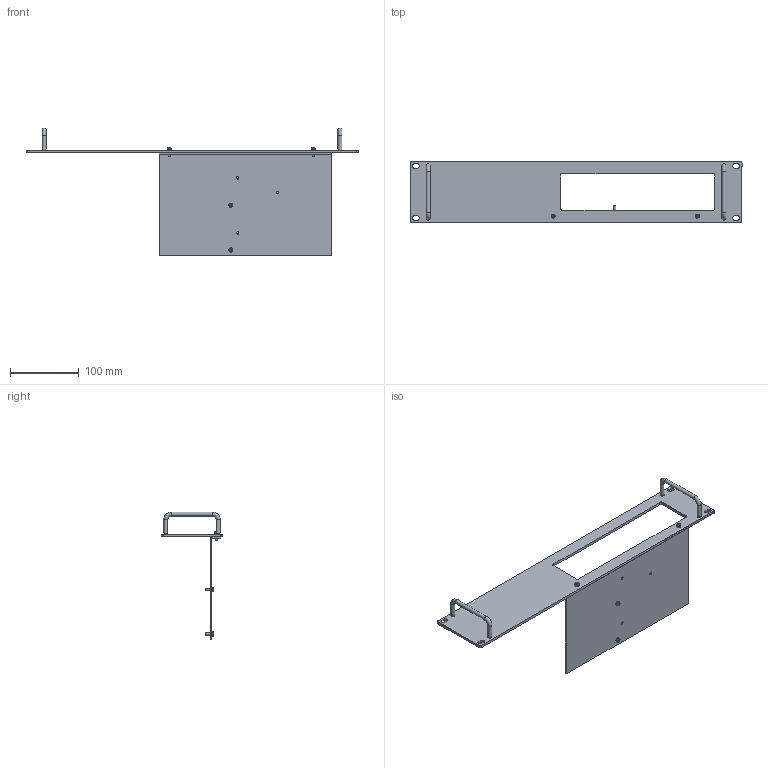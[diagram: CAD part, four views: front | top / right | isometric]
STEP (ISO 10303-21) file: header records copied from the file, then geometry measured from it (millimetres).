
FILE_DESCRIPTION(/* description */ (''),/* implementation_level */ '2;1');
FILE_NAME(/* name */ 'A:\Data\ES300\Option\RA19 1-ES300\step file\RA19-1 ES_Shrinkwrap_1.stp',/* time_stamp */ '2020-12-22T09:12:50+01:00',/* author */ ('Delta'),/* organization */ (''),/* preprocessor_version */ 'ST-DEVELOPER v17.2',/* originating_system */ 'Autodesk Inventor 2019',/* authorisation */ '');
FILE_SCHEMA (('AUTOMOTIVE_DESIGN { 1 0 10303 214 3 1 1 }'));
Length unit declared in the file: millimetre
Products named in the file (1): Assembly RA19-1 ES_Shrinkwrap_1
Bounding box: 482.5 x 88.1 x 186 mm (x, y, z)
Volume: 206717.7 mm3; surface area: 154989.2 mm2
Topology: 1 solids, 1 shells, 339 faces, 845 edges, 528 vertices
Faces by surface type: plane 202, cylinder 71, cone 48, torus 18
Full cylindrical faces by diameter (mm): 3 x4, 3.2 x2, 3.5 x5, 4 x8, 4.2 x4, 4.5 x4, 6 x14
Entity records: 10421 total; most frequent: CARTESIAN_POINT 2197, ORIENTED_EDGE 1674, DIRECTION 1629, EDGE_CURVE 837, AXIS2_PLACEMENT_3D 620, VERTEX_POINT 528, LINE 389, VECTOR 389
